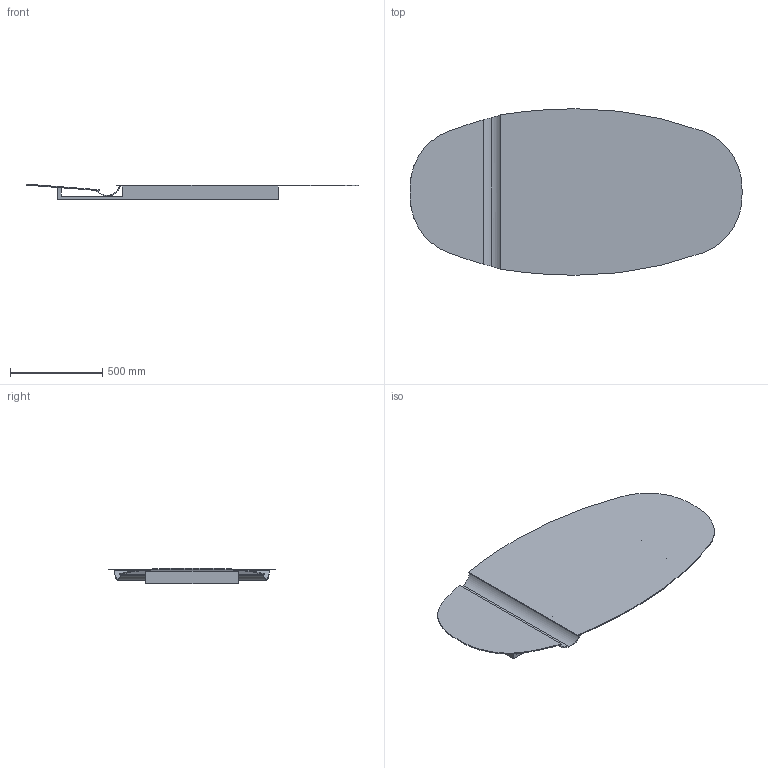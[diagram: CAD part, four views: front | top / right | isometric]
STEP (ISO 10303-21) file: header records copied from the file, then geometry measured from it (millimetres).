
FILE_DESCRIPTION (( 'STEP AP203' ), '1' );
FILE_NAME ('LET02-00-SPECCHIO LET 179,5x90.STEP', '2024-11-22T08:12:03', ( '' ), ( '' ), 'SwSTEP 2.0', 'SolidWorks 2022', '' );
FILE_SCHEMA (( 'CONFIG_CONTROL_DESIGN' ));
Length unit declared in the file: millimetre
Products named in the file (1): LET02-00-SPECCHIO LET 179,5x90
Bounding box: 1794.94 x 900 x 84.99 mm (x, y, z)
Volume: 42583308 mm3; surface area: 4271125 mm2
Topology: 4 solids, 4 shells, 37 faces, 87 edges, 58 vertices
Faces by surface type: plane 20, cylinder 17
Entity records: 1138 total; most frequent: CARTESIAN_POINT 207, DIRECTION 181, ORIENTED_EDGE 174, EDGE_CURVE 87, AXIS2_PLACEMENT_3D 64, VERTEX_POINT 58, VECTOR 53, LINE 53
